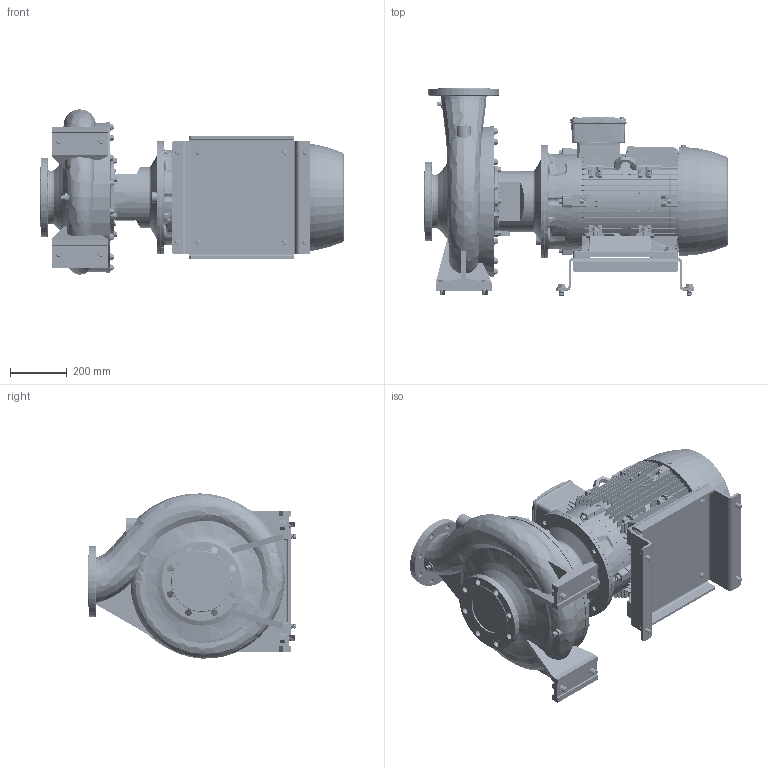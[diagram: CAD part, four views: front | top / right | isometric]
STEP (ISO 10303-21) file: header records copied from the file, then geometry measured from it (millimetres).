
FILE_DESCRIPTION (( 'STEP AP214' ), '1' );
FILE_NAME ('GSD4 125-400_30_(200ML)_W21.STEP', '2026-07-01T03:01:06', ( '' ), ( '' ), 'SwSTEP 2.0', 'SolidWorks 2024', '' );
FILE_SCHEMA (( 'AUTOMOTIVE_DESIGN' ));
Length unit declared in the file: millimetre
Products named in the file (12): Parametric bolt and washer_SFT-A359B; Parametric bolt and washer_SFT-A403B; GSD4 125-400_30_(200ML)_W21; Parametric bolt_SFT-A403B; Parametric bolt and washer_SFT-A351B; 200M_L ALIE3_W21T_B35; 125-400-200M_L_ﾃﾞﾌｫﾙﾄ; Parametric bolt_SFT-A359B; Parametric bolt_SFT-A351B; CGS11-5274; Parametric Flat Washer_M16; Parametric Flat Washer_M20
Assembly tree (21 placements, depth 3):
  GSD4 125-400_30_(200ML)_W21
    125-400-200M_L_ﾃﾞﾌｫﾙﾄ
    CGS11-5274
    Parametric bolt and washer_SFT-A403B  x4
      Parametric bolt_SFT-A403B
      Parametric Flat Washer_M20
    Parametric bolt and washer_SFT-A351B  x4
      Parametric bolt_SFT-A351B
      Parametric Flat Washer_M16
    Parametric bolt and washer_SFT-A359B  x4
      Parametric bolt_SFT-A359B
      Parametric Flat Washer_M16
    200M_L ALIE3_W21T_B35
Bounding box: 1073.8 x 733 x 584.34 mm (x, y, z)
Volume: 115584637.9 mm3; surface area: 5586886.3 mm2
Topology: 55 solids, 65 shells, 7853 faces, 20272 edges, 13044 vertices
Faces by surface type: plane 4447, cylinder 1470, bspline 1038, cone 688, torus 210
Entity records: 300621 total; most frequent: CARTESIAN_POINT 134518, ORIENTED_EDGE 37080, DIRECTION 29913, EDGE_CURVE 18540, VERTEX_POINT 11973, LINE 11295, VECTOR 11295, AXIS2_PLACEMENT_3D 9309
